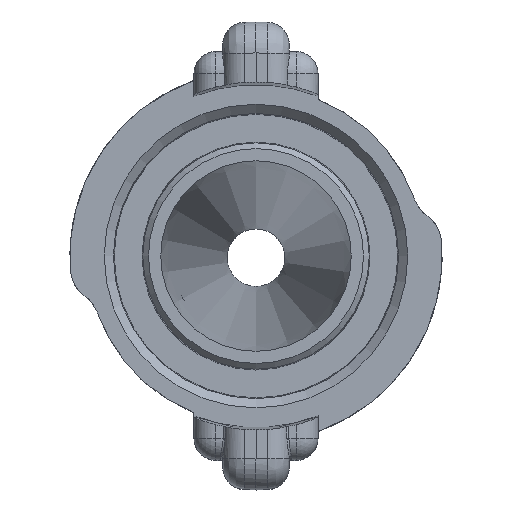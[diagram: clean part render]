
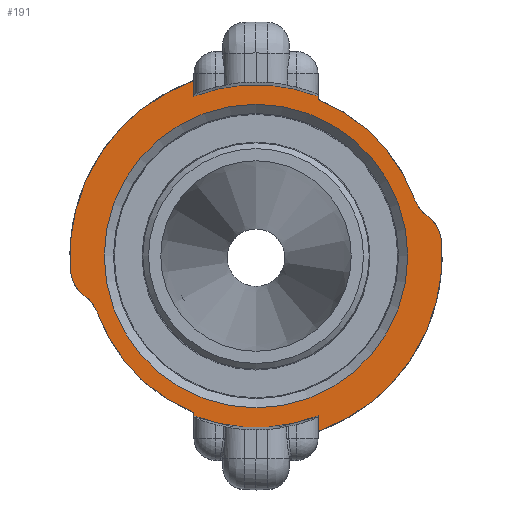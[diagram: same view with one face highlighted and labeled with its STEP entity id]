
A CAD part, top view. The second image highlights one B-rep face of the part: STEP entity #191.
In plain terms, the highlighted planar face has unit normal (0, 0, 1).
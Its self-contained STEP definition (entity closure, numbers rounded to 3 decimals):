
#191=ADVANCED_FACE('',(#1330,#1331),#1332,.T.);
#1330=FACE_BOUND('',#6892,.T.);
#1331=FACE_OUTER_BOUND('',#6893,.T.);
#1332=PLANE('',#6894);
#6892=EDGE_LOOP('',(#14290));
#6893=EDGE_LOOP('',(#14291,#14292,#14293,#14294,#14295,#14296,#14297,#14298,#14299,#14300,#14301,#14302,#14303,#14304,#14305,#14306,#14307,#14308));
#6894=AXIS2_PLACEMENT_3D('',#14309,#14310,#14311);
#14290=ORIENTED_EDGE('',*,*,#23554,.T.);
#14291=ORIENTED_EDGE('',*,*,#23543,.T.);
#14292=ORIENTED_EDGE('',*,*,#23555,.T.);
#14293=ORIENTED_EDGE('',*,*,#23556,.T.);
#14294=ORIENTED_EDGE('',*,*,#23557,.T.);
#14295=ORIENTED_EDGE('',*,*,#23450,.T.);
#14296=ORIENTED_EDGE('',*,*,#23558,.T.);
#14297=ORIENTED_EDGE('',*,*,#23330,.T.);
#14298=ORIENTED_EDGE('',*,*,#23559,.F.);
#14299=ORIENTED_EDGE('',*,*,#23560,.F.);
#14300=ORIENTED_EDGE('',*,*,#23516,.T.);
#14301=ORIENTED_EDGE('',*,*,#23561,.T.);
#14302=ORIENTED_EDGE('',*,*,#23562,.T.);
#14303=ORIENTED_EDGE('',*,*,#23563,.T.);
#14304=ORIENTED_EDGE('',*,*,#23564,.T.);
#14305=ORIENTED_EDGE('',*,*,#23317,.T.);
#14306=ORIENTED_EDGE('',*,*,#23565,.T.);
#14307=ORIENTED_EDGE('',*,*,#23566,.T.);
#14308=ORIENTED_EDGE('',*,*,#23503,.F.);
#14309=CARTESIAN_POINT('',(0.0,0.0,11.0));
#14310=DIRECTION('',(0.0,0.0,1.0));
#14311=DIRECTION('',(1.0,0.0,0.0));
#23317=EDGE_CURVE('',#26533,#26531,#26534,.T.);
#23330=EDGE_CURVE('',#26558,#26559,#26560,.F.);
#23450=EDGE_CURVE('',#26759,#26761,#26763,.F.);
#23503=EDGE_CURVE('',#26850,#26853,#26854,.F.);
#23516=EDGE_CURVE('',#26877,#26875,#26878,.T.);
#23543=EDGE_CURVE('',#26850,#26924,#26926,.T.);
#23554=EDGE_CURVE('',#26944,#26944,#26945,.F.);
#23555=EDGE_CURVE('',#26924,#26946,#26947,.F.);
#23556=EDGE_CURVE('',#26946,#26948,#26949,.T.);
#23557=EDGE_CURVE('',#26948,#26759,#26950,.T.);
#23558=EDGE_CURVE('',#26761,#26558,#26951,.T.);
#23559=EDGE_CURVE('',#26952,#26559,#26953,.T.);
#23560=EDGE_CURVE('',#26877,#26952,#26954,.F.);
#23561=EDGE_CURVE('',#26875,#26955,#26956,.F.);
#23562=EDGE_CURVE('',#26955,#26957,#26958,.T.);
#23563=EDGE_CURVE('',#26957,#26959,#26960,.T.);
#23564=EDGE_CURVE('',#26959,#26533,#26961,.F.);
#23565=EDGE_CURVE('',#26531,#26962,#26963,.F.);
#23566=EDGE_CURVE('',#26962,#26853,#26964,.T.);
#26531=VERTEX_POINT('',#34565);
#26533=VERTEX_POINT('',#34568);
#26534=CIRCLE('',#34569,38.0);
#26558=VERTEX_POINT('',#34679);
#26559=VERTEX_POINT('',#34680);
#26560=CIRCLE('',#34681,0.5);
#26759=VERTEX_POINT('',#35167);
#26761=VERTEX_POINT('',#35170);
#26763=CIRCLE('',#35173,8.0);
#26850=VERTEX_POINT('',#35453);
#26853=VERTEX_POINT('',#35462);
#26854=CIRCLE('',#35463,38.691);
#26875=VERTEX_POINT('',#35557);
#26877=VERTEX_POINT('',#35560);
#26878=LINE('',#35561,#35562);
#26924=VERTEX_POINT('',#35678);
#26926=LINE('',#35681,#35682);
#26944=VERTEX_POINT('',#35719);
#26945=CIRCLE('',#35720,34.25);
#26946=VERTEX_POINT('',#35721);
#26947=CIRCLE('',#35722,0.5);
#26948=VERTEX_POINT('',#35723);
#26949=CIRCLE('',#35724,42.0);
#26950=CIRCLE('',#35725,8.0);
#26951=CIRCLE('',#35726,38.0);
#26952=VERTEX_POINT('',#35727);
#26953=LINE('',#35728,#35729);
#26954=CIRCLE('',#35730,38.691);
#26955=VERTEX_POINT('',#35731);
#26956=CIRCLE('',#35732,0.5);
#26957=VERTEX_POINT('',#35733);
#26958=CIRCLE('',#35734,42.0);
#26959=VERTEX_POINT('',#35735);
#26960=CIRCLE('',#35736,8.0);
#26961=CIRCLE('',#35737,8.0);
#26962=VERTEX_POINT('',#35738);
#26963=CIRCLE('',#35739,0.5);
#26964=LINE('',#35740,#35741);
#34565=CARTESIAN_POINT('',(-14.312,-35.202,11.0));
#34568=CARTESIAN_POINT('',(-35.749,-12.883,11.0));
#34569=AXIS2_PLACEMENT_3D('',#44100,#44101,#44102);
#34679=CARTESIAN_POINT('',(14.312,35.202,11.0));
#34680=CARTESIAN_POINT('',(14.0,35.665,11.0));
#34681=AXIS2_PLACEMENT_3D('',#44110,#44111,#44112);
#35167=CARTESIAN_POINT('',(38.587,9.114,11.0));
#35170=CARTESIAN_POINT('',(35.749,12.883,11.0));
#35173=AXIS2_PLACEMENT_3D('',#44306,#44307,#44308);
#35453=CARTESIAN_POINT('',(14.0,-36.07,11.0));
#35462=CARTESIAN_POINT('',(-14.0,-36.07,11.0));
#35463=AXIS2_PLACEMENT_3D('',#44380,#44381,#44382);
#35557=CARTESIAN_POINT('',(-14.0,39.95,11.0));
#35560=CARTESIAN_POINT('',(-14.0,36.07,11.0));
#35561=CARTESIAN_POINT('',(-14.0,39.25,11.0));
#35562=VECTOR('',#44397,1.0);
#35678=CARTESIAN_POINT('',(14.0,-39.95,11.0));
#35681=CARTESIAN_POINT('',(14.0,39.25,11.0));
#35682=VECTOR('',#44435,1.0);
#35719=CARTESIAN_POINT('',(34.25,0.,11.0));
#35720=AXIS2_PLACEMENT_3D('',#44451,#44452,#44453);
#35721=CARTESIAN_POINT('',(14.329,-39.48,11.0));
#35722=AXIS2_PLACEMENT_3D('',#44454,#44455,#44456);
#35723=CARTESIAN_POINT('',(41.874,3.251,11.0));
#35724=AXIS2_PLACEMENT_3D('',#44457,#44458,#44459);
#35725=AXIS2_PLACEMENT_3D('',#44460,#44461,#44462);
#35726=AXIS2_PLACEMENT_3D('',#44463,#44464,#44465);
#35727=CARTESIAN_POINT('',(14.0,36.07,11.0));
#35728=CARTESIAN_POINT('',(14.0,39.25,11.0));
#35729=VECTOR('',#44466,1.0);
#35730=AXIS2_PLACEMENT_3D('',#44467,#44468,#44469);
#35731=CARTESIAN_POINT('',(-14.329,39.48,11.0));
#35732=AXIS2_PLACEMENT_3D('',#44470,#44471,#44472);
#35733=CARTESIAN_POINT('',(-41.874,-3.251,11.0));
#35734=AXIS2_PLACEMENT_3D('',#44473,#44474,#44475);
#35735=CARTESIAN_POINT('',(-38.587,-9.114,11.0));
#35736=AXIS2_PLACEMENT_3D('',#44476,#44477,#44478);
#35737=AXIS2_PLACEMENT_3D('',#44479,#44480,#44481);
#35738=CARTESIAN_POINT('',(-14.0,-35.665,11.0));
#35739=AXIS2_PLACEMENT_3D('',#44482,#44483,#44484);
#35740=CARTESIAN_POINT('',(-14.0,39.25,11.0));
#35741=VECTOR('',#44485,1.0);
#44100=CARTESIAN_POINT('',(0.0,0.0,11.0));
#44101=DIRECTION('',(0.0,0.0,1.0));
#44102=DIRECTION('',(1.0,0.0,0.0));
#44110=CARTESIAN_POINT('',(14.5,35.665,11.0));
#44111=DIRECTION('',(0.0,0.0,1.0));
#44112=DIRECTION('',(1.0,0.0,0.0));
#44306=CARTESIAN_POINT('',(43.276,15.595,11.0));
#44307=DIRECTION('',(0.0,0.0,1.0));
#44308=DIRECTION('',(1.0,0.0,0.0));
#44380=CARTESIAN_POINT('',(0.0,0.,11.0));
#44381=DIRECTION('',(0.0,0.0,1.0));
#44382=DIRECTION('',(1.0,0.0,0.0));
#44397=DIRECTION('',(0.0,1.0,0.0));
#44435=DIRECTION('',(0.0,-1.0,0.0));
#44451=CARTESIAN_POINT('',(0.0,0.0,11.0));
#44452=DIRECTION('',(0.0,0.0,1.0));
#44453=DIRECTION('',(1.0,0.0,0.0));
#44454=CARTESIAN_POINT('',(14.5,-39.95,11.0));
#44455=DIRECTION('',(0.0,0.0,1.0));
#44456=DIRECTION('',(1.0,0.0,0.0));
#44457=CARTESIAN_POINT('',(0.,0.,11.0));
#44458=DIRECTION('',(0.0,0.0,1.0));
#44459=DIRECTION('',(-1.0,0.,0.0));
#44460=CARTESIAN_POINT('',(33.898,2.632,11.0));
#44461=DIRECTION('',(0.0,0.0,1.0));
#44462=DIRECTION('',(1.0,0.0,0.0));
#44463=CARTESIAN_POINT('',(0.0,0.0,11.0));
#44464=DIRECTION('',(0.0,0.0,1.0));
#44465=DIRECTION('',(1.0,0.0,0.0));
#44466=DIRECTION('',(0.0,-1.0,0.0));
#44467=CARTESIAN_POINT('',(0.0,0.,11.0));
#44468=DIRECTION('',(0.0,0.0,1.0));
#44469=DIRECTION('',(1.0,0.0,0.0));
#44470=CARTESIAN_POINT('',(-14.5,39.95,11.0));
#44471=DIRECTION('',(0.0,0.0,1.0));
#44472=DIRECTION('',(1.0,0.0,0.0));
#44473=CARTESIAN_POINT('',(0.,0.,11.0));
#44474=DIRECTION('',(0.0,0.0,1.0));
#44475=DIRECTION('',(1.0,0.0,0.0));
#44476=CARTESIAN_POINT('',(-33.898,-2.632,11.0));
#44477=DIRECTION('',(0.0,0.0,1.0));
#44478=DIRECTION('',(1.0,0.0,0.0));
#44479=CARTESIAN_POINT('',(-43.276,-15.595,11.0));
#44480=DIRECTION('',(0.0,0.0,1.0));
#44481=DIRECTION('',(1.0,0.0,0.0));
#44482=CARTESIAN_POINT('',(-14.5,-35.665,11.0));
#44483=DIRECTION('',(0.0,0.0,1.0));
#44484=DIRECTION('',(1.0,0.0,0.0));
#44485=DIRECTION('',(0.0,-1.0,0.0));
